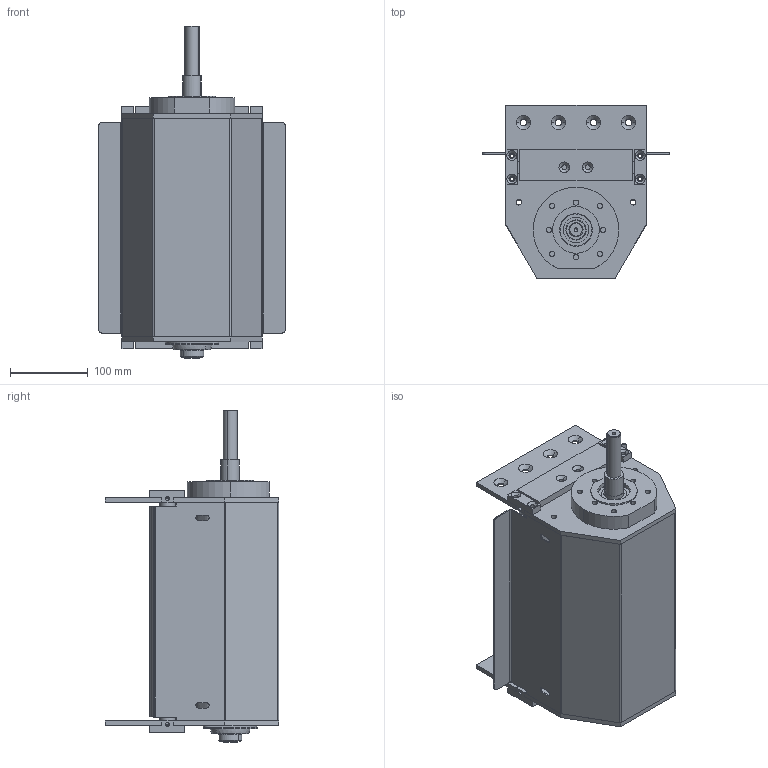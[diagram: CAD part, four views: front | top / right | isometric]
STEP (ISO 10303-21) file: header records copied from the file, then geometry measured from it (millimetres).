
FILE_DESCRIPTION (( 'STEP AP203' ), '1' );
FILE_NAME ('084.050.KCS.44.250.STEP', '2014-04-08T12:32:56', ( '' ), ( '' ), 'SwSTEP 2.0', 'SolidWorks 2012', '' );
FILE_SCHEMA (( 'CONFIG_CONTROL_DESIGN' ));
Length unit declared in the file: millimetre
Products named in the file (15): 084.817.068; 084.050.KCS.44.250; CUSCINETTI A SFERE_6004-2RS; 084.802.003; 084.812.003; 084.802.020; 084.802.004-1; 084.810.003; 084.814.002-1; 084.802.021; 084.802.010; 084.802.012_Solo centrale; 084.817.069; 084.817.067; 084.817.070_Default<A macchina>
Assembly tree (25 placements, depth 2):
  084.050.KCS.44.250
    084.817.068  x2
    084.817.070_Default<A macchina>
    084.817.067
    084.817.069  x2
    084.802.012_Solo centrale  x2
    084.802.010
    084.802.021
    084.814.002-1
    084.810.003  x2
    084.802.004-1  x4
    084.802.020
    084.812.003
    084.802.003  x2
    CUSCINETTI A SFERE_6004-2RS  x4
Bounding box: 240 x 223 x 426.5 mm (x, y, z)
Volume: 2233271.1 mm3; surface area: 1058875.2 mm2
Topology: 27 solids, 27 shells, 851 faces, 2088 edges, 1340 vertices
Faces by surface type: cylinder 337, plane 311, cone 125, torus 68, sphere 10
Entity records: 18340 total; most frequent: DIRECTION 3093, CARTESIAN_POINT 2867, ORIENTED_EDGE 2650, EDGE_CURVE 1325, AXIS2_PLACEMENT_3D 1215, VERTEX_POINT 853, EDGE_LOOP 678, LINE 663
